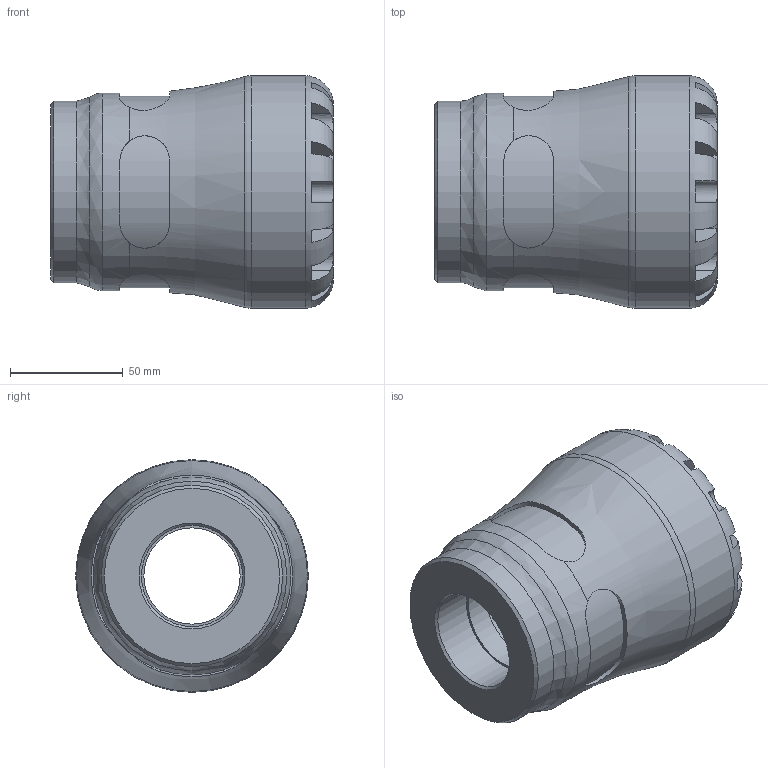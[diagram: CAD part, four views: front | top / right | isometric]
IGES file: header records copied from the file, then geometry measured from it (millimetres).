
Global section: file name: 1003G0063015_1903G0063015.ipt; native system: Autodesk Inventor 2015; preprocessor: unknown; author: KIM; date: 20190127.091400; units: millimetre
Bounding box: 125 x 103 x 103 mm (x, y, z)
Volume: 500172.6 mm3; surface area: 71945.1 mm2
Topology: 1 solids, 1 shells, 104 faces, 279 edges, 180 vertices
Faces by surface type: plane 61, revolution 27, cylinder 15, cone 1
Full cylindrical faces by diameter (mm): 80.34 x1, 87.55 x1, 103 x1
